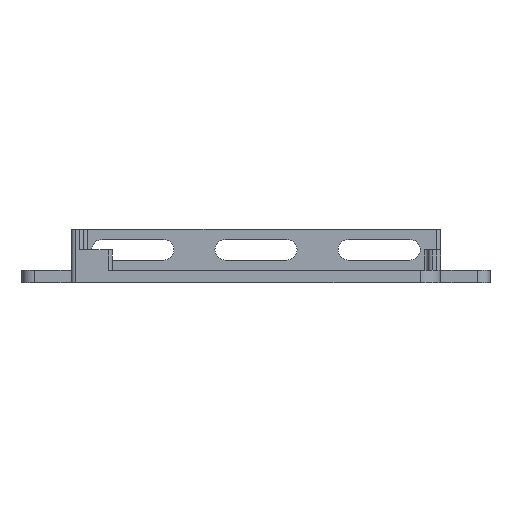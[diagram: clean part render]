
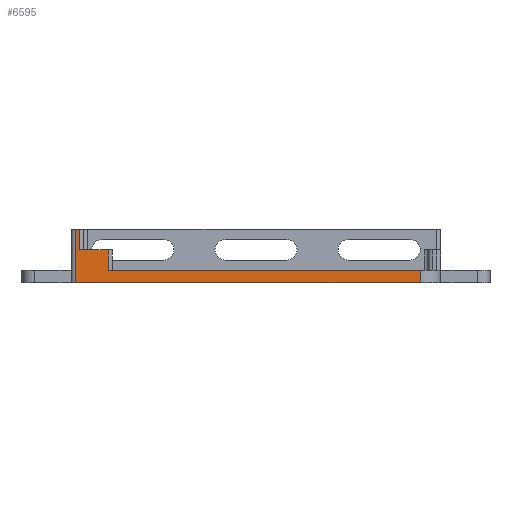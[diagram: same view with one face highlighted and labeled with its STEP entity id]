
A CAD part, front view. The second image highlights one B-rep face of the part: STEP entity #6595.
In plain terms, the highlighted planar face has unit normal (0, -1, 0).
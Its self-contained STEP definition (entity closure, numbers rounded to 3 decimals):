
#32 = PLANE('',#33);
#33 = AXIS2_PLACEMENT_3D('',#34,#35,#36);
#34 = CARTESIAN_POINT('',(25.697,44.269,3.));
#35 = DIRECTION('',(0.,0.,1.));
#36 = DIRECTION('',(1.,0.,0.));
#57 = VERTEX_POINT('',#58);
#58 = CARTESIAN_POINT('',(-36.,-87.5,3.));
#73 = CYLINDRICAL_SURFACE('',#74,1.);
#74 = AXIS2_PLACEMENT_3D('',#75,#76,#77);
#75 = CARTESIAN_POINT('',(-36.,-86.5,3.));
#76 = DIRECTION('',(0.,0.,1.));
#77 = DIRECTION('',(0.,-1.,0.));
#85 = EDGE_CURVE('',#57,#86,#88,.T.);
#86 = VERTEX_POINT('',#87);
#87 = CARTESIAN_POINT('',(40.,-87.5,3.));
#88 = SURFACE_CURVE('',#89,(#93,#100),.PCURVE_S1.);
#89 = LINE('',#90,#91);
#90 = CARTESIAN_POINT('',(-36.,-87.5,3.));
#91 = VECTOR('',#92,1.);
#92 = DIRECTION('',(1.,0.,0.));
#93 = PCURVE('',#32,#94);
#94 = DEFINITIONAL_REPRESENTATION('',(#95),#99);
#95 = LINE('',#96,#97);
#96 = CARTESIAN_POINT('',(-61.697,-131.769));
#97 = VECTOR('',#98,1.);
#98 = DIRECTION('',(1.,0.));
#99 = ( GEOMETRIC_REPRESENTATION_CONTEXT(2) 
PARAMETRIC_REPRESENTATION_CONTEXT() REPRESENTATION_CONTEXT('2D SPACE',''
  ) );
#100 = PCURVE('',#101,#106);
#101 = PLANE('',#102);
#102 = AXIS2_PLACEMENT_3D('',#103,#104,#105);
#103 = CARTESIAN_POINT('',(-45.,-87.5,3.));
#104 = DIRECTION('',(0.,1.,0.));
#105 = DIRECTION('',(0.,0.,1.));
#106 = DEFINITIONAL_REPRESENTATION('',(#107),#111);
#107 = LINE('',#108,#109);
#108 = CARTESIAN_POINT('',(0.,9.));
#109 = VECTOR('',#110,1.);
#110 = DIRECTION('',(0.,1.));
#111 = ( GEOMETRIC_REPRESENTATION_CONTEXT(2) 
PARAMETRIC_REPRESENTATION_CONTEXT() REPRESENTATION_CONTEXT('2D SPACE',''
  ) );
#134 = CYLINDRICAL_SURFACE('',#135,5.);
#135 = AXIS2_PLACEMENT_3D('',#136,#137,#138);
#136 = CARTESIAN_POINT('',(40.,-82.5,0.));
#137 = DIRECTION('',(0.,0.,1.));
#138 = DIRECTION('',(1.,0.,-0.));
#6441 = PLANE('',#6442);
#6442 = AXIS2_PLACEMENT_3D('',#6443,#6444,#6445);
#6443 = CARTESIAN_POINT('',(-45.,-87.5,8.));
#6444 = DIRECTION('',(0.,0.,1.));
#6445 = DIRECTION('',(1.,0.,0.));
#6502 = VERTEX_POINT('',#6503);
#6503 = CARTESIAN_POINT('',(-36.,-87.5,8.));
#6525 = EDGE_CURVE('',#57,#6502,#6526,.T.);
#6526 = SURFACE_CURVE('',#6527,(#6531,#6538),.PCURVE_S1.);
#6527 = LINE('',#6528,#6529);
#6528 = CARTESIAN_POINT('',(-36.,-87.5,3.));
#6529 = VECTOR('',#6530,1.);
#6530 = DIRECTION('',(0.,0.,1.));
#6531 = PCURVE('',#73,#6532);
#6532 = DEFINITIONAL_REPRESENTATION('',(#6533),#6537);
#6533 = LINE('',#6534,#6535);
#6534 = CARTESIAN_POINT('',(0.,0.));
#6535 = VECTOR('',#6536,1.);
#6536 = DIRECTION('',(0.,1.));
#6537 = ( GEOMETRIC_REPRESENTATION_CONTEXT(2) 
PARAMETRIC_REPRESENTATION_CONTEXT() REPRESENTATION_CONTEXT('2D SPACE',''
  ) );
#6538 = PCURVE('',#101,#6539);
#6539 = DEFINITIONAL_REPRESENTATION('',(#6540),#6544);
#6540 = LINE('',#6541,#6542);
#6541 = CARTESIAN_POINT('',(0.,9.));
#6542 = VECTOR('',#6543,1.);
#6543 = DIRECTION('',(1.,0.));
#6544 = ( GEOMETRIC_REPRESENTATION_CONTEXT(2) 
PARAMETRIC_REPRESENTATION_CONTEXT() REPRESENTATION_CONTEXT('2D SPACE',''
  ) );
#6595 = ADVANCED_FACE('',(#6596),#101,.F.);
#6596 = FACE_BOUND('',#6597,.F.);
#6597 = EDGE_LOOP('',(#6598,#6628,#6656,#6684,#6712,#6733,#6734,#6735));
#6598 = ORIENTED_EDGE('',*,*,#6599,.F.);
#6599 = EDGE_CURVE('',#6600,#6602,#6604,.T.);
#6600 = VERTEX_POINT('',#6601);
#6601 = CARTESIAN_POINT('',(-44.,-87.5,0.));
#6602 = VERTEX_POINT('',#6603);
#6603 = CARTESIAN_POINT('',(40.,-87.5,0.));
#6604 = SURFACE_CURVE('',#6605,(#6609,#6616),.PCURVE_S1.);
#6605 = LINE('',#6606,#6607);
#6606 = CARTESIAN_POINT('',(-45.,-87.5,0.));
#6607 = VECTOR('',#6608,1.);
#6608 = DIRECTION('',(1.,0.,0.));
#6609 = PCURVE('',#101,#6610);
#6610 = DEFINITIONAL_REPRESENTATION('',(#6611),#6615);
#6611 = LINE('',#6612,#6613);
#6612 = CARTESIAN_POINT('',(-3.,0.));
#6613 = VECTOR('',#6614,1.);
#6614 = DIRECTION('',(0.,1.));
#6615 = ( GEOMETRIC_REPRESENTATION_CONTEXT(2) 
PARAMETRIC_REPRESENTATION_CONTEXT() REPRESENTATION_CONTEXT('2D SPACE',''
  ) );
#6616 = PCURVE('',#6617,#6622);
#6617 = PLANE('',#6618);
#6618 = AXIS2_PLACEMENT_3D('',#6619,#6620,#6621);
#6619 = CARTESIAN_POINT('',(25.697,44.269,0.));
#6620 = DIRECTION('',(0.,0.,1.));
#6621 = DIRECTION('',(1.,0.,0.));
#6622 = DEFINITIONAL_REPRESENTATION('',(#6623),#6627);
#6623 = LINE('',#6624,#6625);
#6624 = CARTESIAN_POINT('',(-70.697,-131.769));
#6625 = VECTOR('',#6626,1.);
#6626 = DIRECTION('',(1.,0.));
#6627 = ( GEOMETRIC_REPRESENTATION_CONTEXT(2) 
PARAMETRIC_REPRESENTATION_CONTEXT() REPRESENTATION_CONTEXT('2D SPACE',''
  ) );
#6628 = ORIENTED_EDGE('',*,*,#6629,.F.);
#6629 = EDGE_CURVE('',#6630,#6600,#6632,.T.);
#6630 = VERTEX_POINT('',#6631);
#6631 = CARTESIAN_POINT('',(-44.,-87.5,13.));
#6632 = SURFACE_CURVE('',#6633,(#6637,#6644),.PCURVE_S1.);
#6633 = LINE('',#6634,#6635);
#6634 = CARTESIAN_POINT('',(-44.,-87.5,13.));
#6635 = VECTOR('',#6636,1.);
#6636 = DIRECTION('',(0.,0.,-1.));
#6637 = PCURVE('',#101,#6638);
#6638 = DEFINITIONAL_REPRESENTATION('',(#6639),#6643);
#6639 = LINE('',#6640,#6641);
#6640 = CARTESIAN_POINT('',(10.,1.));
#6641 = VECTOR('',#6642,1.);
#6642 = DIRECTION('',(-1.,0.));
#6643 = ( GEOMETRIC_REPRESENTATION_CONTEXT(2) 
PARAMETRIC_REPRESENTATION_CONTEXT() REPRESENTATION_CONTEXT('2D SPACE',''
  ) );
#6644 = PCURVE('',#6645,#6650);
#6645 = CYLINDRICAL_SURFACE('',#6646,1.);
#6646 = AXIS2_PLACEMENT_3D('',#6647,#6648,#6649);
#6647 = CARTESIAN_POINT('',(-44.,-86.5,13.));
#6648 = DIRECTION('',(0.,0.,-1.));
#6649 = DIRECTION('',(0.,-1.,-0.));
#6650 = DEFINITIONAL_REPRESENTATION('',(#6651),#6655);
#6651 = LINE('',#6652,#6653);
#6652 = CARTESIAN_POINT('',(0.,0.));
#6653 = VECTOR('',#6654,1.);
#6654 = DIRECTION('',(0.,1.));
#6655 = ( GEOMETRIC_REPRESENTATION_CONTEXT(2) 
PARAMETRIC_REPRESENTATION_CONTEXT() REPRESENTATION_CONTEXT('2D SPACE',''
  ) );
#6656 = ORIENTED_EDGE('',*,*,#6657,.T.);
#6657 = EDGE_CURVE('',#6630,#6658,#6660,.T.);
#6658 = VERTEX_POINT('',#6659);
#6659 = CARTESIAN_POINT('',(-43.,-87.5,13.));
#6660 = SURFACE_CURVE('',#6661,(#6665,#6672),.PCURVE_S1.);
#6661 = LINE('',#6662,#6663);
#6662 = CARTESIAN_POINT('',(-45.,-87.5,13.));
#6663 = VECTOR('',#6664,1.);
#6664 = DIRECTION('',(1.,0.,0.));
#6665 = PCURVE('',#101,#6666);
#6666 = DEFINITIONAL_REPRESENTATION('',(#6667),#6671);
#6667 = LINE('',#6668,#6669);
#6668 = CARTESIAN_POINT('',(10.,0.));
#6669 = VECTOR('',#6670,1.);
#6670 = DIRECTION('',(0.,1.));
#6671 = ( GEOMETRIC_REPRESENTATION_CONTEXT(2) 
PARAMETRIC_REPRESENTATION_CONTEXT() REPRESENTATION_CONTEXT('2D SPACE',''
  ) );
#6672 = PCURVE('',#6673,#6678);
#6673 = PLANE('',#6674);
#6674 = AXIS2_PLACEMENT_3D('',#6675,#6676,#6677);
#6675 = CARTESIAN_POINT('',(-45.,-87.5,13.));
#6676 = DIRECTION('',(0.,0.,1.));
#6677 = DIRECTION('',(1.,0.,0.));
#6678 = DEFINITIONAL_REPRESENTATION('',(#6679),#6683);
#6679 = LINE('',#6680,#6681);
#6680 = CARTESIAN_POINT('',(0.,0.));
#6681 = VECTOR('',#6682,1.);
#6682 = DIRECTION('',(1.,0.));
#6683 = ( GEOMETRIC_REPRESENTATION_CONTEXT(2) 
PARAMETRIC_REPRESENTATION_CONTEXT() REPRESENTATION_CONTEXT('2D SPACE',''
  ) );
#6684 = ORIENTED_EDGE('',*,*,#6685,.F.);
#6685 = EDGE_CURVE('',#6686,#6658,#6688,.T.);
#6686 = VERTEX_POINT('',#6687);
#6687 = CARTESIAN_POINT('',(-43.,-87.5,8.));
#6688 = SURFACE_CURVE('',#6689,(#6693,#6700),.PCURVE_S1.);
#6689 = LINE('',#6690,#6691);
#6690 = CARTESIAN_POINT('',(-43.,-87.5,8.));
#6691 = VECTOR('',#6692,1.);
#6692 = DIRECTION('',(0.,0.,1.));
#6693 = PCURVE('',#101,#6694);
#6694 = DEFINITIONAL_REPRESENTATION('',(#6695),#6699);
#6695 = LINE('',#6696,#6697);
#6696 = CARTESIAN_POINT('',(5.,2.));
#6697 = VECTOR('',#6698,1.);
#6698 = DIRECTION('',(1.,0.));
#6699 = ( GEOMETRIC_REPRESENTATION_CONTEXT(2) 
PARAMETRIC_REPRESENTATION_CONTEXT() REPRESENTATION_CONTEXT('2D SPACE',''
  ) );
#6700 = PCURVE('',#6701,#6706);
#6701 = CYLINDRICAL_SURFACE('',#6702,1.);
#6702 = AXIS2_PLACEMENT_3D('',#6703,#6704,#6705);
#6703 = CARTESIAN_POINT('',(-43.,-86.5,8.));
#6704 = DIRECTION('',(0.,0.,1.));
#6705 = DIRECTION('',(0.,-1.,0.));
#6706 = DEFINITIONAL_REPRESENTATION('',(#6707),#6711);
#6707 = LINE('',#6708,#6709);
#6708 = CARTESIAN_POINT('',(0.,0.));
#6709 = VECTOR('',#6710,1.);
#6710 = DIRECTION('',(0.,1.));
#6711 = ( GEOMETRIC_REPRESENTATION_CONTEXT(2) 
PARAMETRIC_REPRESENTATION_CONTEXT() REPRESENTATION_CONTEXT('2D SPACE',''
  ) );
#6712 = ORIENTED_EDGE('',*,*,#6713,.F.);
#6713 = EDGE_CURVE('',#6502,#6686,#6714,.T.);
#6714 = SURFACE_CURVE('',#6715,(#6719,#6726),.PCURVE_S1.);
#6715 = LINE('',#6716,#6717);
#6716 = CARTESIAN_POINT('',(-36.,-87.5,8.));
#6717 = VECTOR('',#6718,1.);
#6718 = DIRECTION('',(-1.,0.,0.));
#6719 = PCURVE('',#101,#6720);
#6720 = DEFINITIONAL_REPRESENTATION('',(#6721),#6725);
#6721 = LINE('',#6722,#6723);
#6722 = CARTESIAN_POINT('',(5.,9.));
#6723 = VECTOR('',#6724,1.);
#6724 = DIRECTION('',(0.,-1.));
#6725 = ( GEOMETRIC_REPRESENTATION_CONTEXT(2) 
PARAMETRIC_REPRESENTATION_CONTEXT() REPRESENTATION_CONTEXT('2D SPACE',''
  ) );
#6726 = PCURVE('',#6441,#6727);
#6727 = DEFINITIONAL_REPRESENTATION('',(#6728),#6732);
#6728 = LINE('',#6729,#6730);
#6729 = CARTESIAN_POINT('',(9.,0.));
#6730 = VECTOR('',#6731,1.);
#6731 = DIRECTION('',(-1.,0.));
#6732 = ( GEOMETRIC_REPRESENTATION_CONTEXT(2) 
PARAMETRIC_REPRESENTATION_CONTEXT() REPRESENTATION_CONTEXT('2D SPACE',''
  ) );
#6733 = ORIENTED_EDGE('',*,*,#6525,.F.);
#6734 = ORIENTED_EDGE('',*,*,#85,.T.);
#6735 = ORIENTED_EDGE('',*,*,#6736,.F.);
#6736 = EDGE_CURVE('',#6602,#86,#6737,.T.);
#6737 = SURFACE_CURVE('',#6738,(#6742,#6749),.PCURVE_S1.);
#6738 = LINE('',#6739,#6740);
#6739 = CARTESIAN_POINT('',(40.,-87.5,0.));
#6740 = VECTOR('',#6741,1.);
#6741 = DIRECTION('',(0.,0.,1.));
#6742 = PCURVE('',#101,#6743);
#6743 = DEFINITIONAL_REPRESENTATION('',(#6744),#6748);
#6744 = LINE('',#6745,#6746);
#6745 = CARTESIAN_POINT('',(-3.,85.));
#6746 = VECTOR('',#6747,1.);
#6747 = DIRECTION('',(1.,0.));
#6748 = ( GEOMETRIC_REPRESENTATION_CONTEXT(2) 
PARAMETRIC_REPRESENTATION_CONTEXT() REPRESENTATION_CONTEXT('2D SPACE',''
  ) );
#6749 = PCURVE('',#134,#6750);
#6750 = DEFINITIONAL_REPRESENTATION('',(#6751),#6755);
#6751 = LINE('',#6752,#6753);
#6752 = CARTESIAN_POINT('',(-1.571,0.));
#6753 = VECTOR('',#6754,1.);
#6754 = DIRECTION('',(-0.,1.));
#6755 = ( GEOMETRIC_REPRESENTATION_CONTEXT(2) 
PARAMETRIC_REPRESENTATION_CONTEXT() REPRESENTATION_CONTEXT('2D SPACE',''
  ) );
